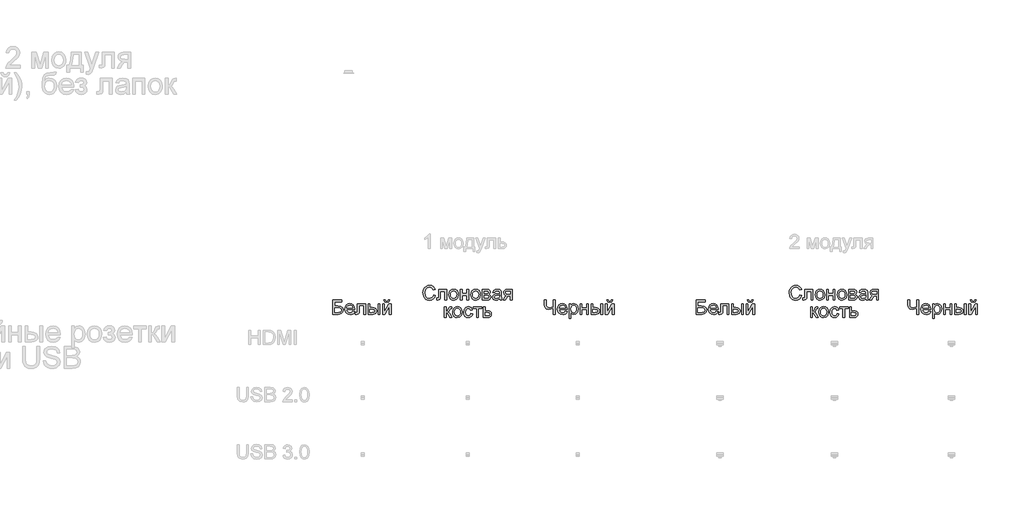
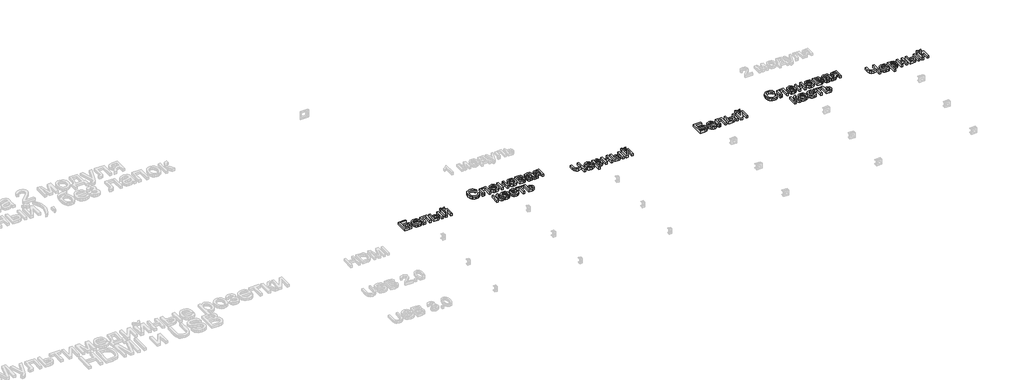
# One storey, part 37 of 47: 6 proxies.
"""IFC4 building model written with IfcOpenShell, lengths in millimetres."""

import ifcopenshell
import ifcopenshell.guid

model = None  # the IFC model being written
_history = None  # IfcOwnerHistory: only IFC2X3 demands one
_inside = {}  # id of a spatial element -> (the spatial element, [elements in it])
_under = {}  # id of a project, library or spatial element -> (it, [spatial elements below it])
_declared = {}  # id of a project -> (the project, [libraries it declares])
_typed = {}  # id of a type object -> (the type object, [elements of that type])
_made_of = {}  # id of a material, layer set ... -> (it, [elements and type objects made of it])


def new_model(schema):
    """Start an empty IFC model of exactly this schema.

    Asked for "IFC4X3", IfcOpenShell would pick the latest addendum, in which some entities
    have other attributes; the version numbers below select the first issue.
    IFC2X3 requires an IfcOwnerHistory on every rooted entity: one is made here for all.
    """
    global model, _history
    if schema == "IFC4X3":
        model = ifcopenshell.file(schema_version=(4, 3, 0, 0))
    else:
        model = ifcopenshell.file(schema=schema)
    _inside.clear()
    _under.clear()
    _declared.clear()
    _typed.clear()
    _made_of.clear()
    _history = None
    if model.schema == "IFC2X3":
        org = make("IfcOrganization", Name="unknown")
        user = make(
            "IfcPersonAndOrganization",
            ThePerson=make("IfcPerson", FamilyName="unknown"),
            TheOrganization=org,
        )
        app = make(
            "IfcApplication",
            ApplicationDeveloper=org,
            Version="unknown",
            ApplicationFullName="unknown",
            ApplicationIdentifier="unknown",
        )
        _history = make(
            "IfcOwnerHistory",
            OwningUser=user,
            OwningApplication=app,
            ChangeAction="ADDED",
            CreationDate=0,
        )
    return model


def make(cls, **values):
    """One entity of the class cls with the attributes given. An attribute that is None is left unset."""
    return model.create_entity(
        cls, **{name: value for name, value in values.items() if value is not None}
    )


def rooted(cls, **values):
    """An entity with a GlobalId (a new one), such as an element, a storey or a relation."""
    return make(cls, GlobalId=ifcopenshell.guid.new(), OwnerHistory=_history, **values)


def si_unit(unit_type, name, prefix=None):
    """IfcSIUnit, for example si_unit("LENGTHUNIT", "METRE", prefix="MILLI")."""
    return make("IfcSIUnit", UnitType=unit_type, Prefix=prefix, Name=name)


def assignment(units):
    """IfcUnitAssignment: the units of a project."""
    return None if units is None else make("IfcUnitAssignment", Units=units)


def point(xyz):
    """IfcCartesianPoint."""
    return None if xyz is None else make("IfcCartesianPoint", Coordinates=xyz)


def direction(xyz):
    """IfcDirection."""
    return None if xyz is None else make("IfcDirection", DirectionRatios=xyz)


def frame(location, z_axis=None, x_axis=None):
    """IfcAxis2Placement3D, a coordinate frame: its origin and axes. An axis left out is left unset."""
    return make(
        "IfcAxis2Placement3D",
        Location=point(location),
        Axis=direction(z_axis),
        RefDirection=direction(x_axis),
    )


def origin():
    """The frame at (0, 0, 0) with its axes left unset."""
    return frame((0.0, 0.0, 0.0))


def origin_with_axes():
    """The frame at (0, 0, 0) with the z axis (0, 0, 1) and the x axis (1, 0, 0) written out."""
    return frame((0.0, 0.0, 0.0), z_axis=(0.0, 0.0, 1.0), x_axis=(1.0, 0.0, 0.0))


def place(relative_to, where):
    """IfcLocalPlacement: puts the frame where relative to a parent placement (None: the world)."""
    return make(
        "IfcLocalPlacement", PlacementRelTo=relative_to, RelativePlacement=where
    )


def context(
    kind, dimensions, precision=None, world=None, true_north=None, identifier=None
):
    """IfcGeometricRepresentationContext, for example the 3D "Model" context."""
    return make(
        "IfcGeometricRepresentationContext",
        ContextIdentifier=identifier,
        ContextType=kind,
        CoordinateSpaceDimension=dimensions,
        Precision=precision,
        WorldCoordinateSystem=world,
        TrueNorth=true_north,
    )


def project(units=None, contexts=None):
    """IfcProject with its units and contexts."""
    return rooted(
        "IfcProject",
        Name="project",
        RepresentationContexts=contexts,
        UnitsInContext=assignment(units),
    )


def spatial(cls, under=None, at=None, **own):
    """A site, building, storey or space (cls), placed at a placement, below another one or the project."""
    s = rooted(cls, ObjectPlacement=at, **own)
    if under is not None:
        _under.setdefault(under.id(), (under, []))[1].append(s)
    return s


def polyline(points):
    """IfcPolyline through the points."""
    return make("IfcPolyline", Points=[point(p) for p in points])


def outline(outer, holes=None, kind="AREA"):
    """IfcArbitraryClosedProfileDef: a profile drawn as a closed curve; with holes, ...WithVoids."""
    if holes is None:
        return make("IfcArbitraryClosedProfileDef", ProfileType=kind, OuterCurve=outer)
    return make(
        "IfcArbitraryProfileDefWithVoids",
        ProfileType=kind,
        OuterCurve=outer,
        InnerCurves=holes,
    )


def extrude(swept, where, along, depth):
    """IfcExtrudedAreaSolid: the profile swept, set in the frame where, extruded along a direction by depth."""
    return make(
        "IfcExtrudedAreaSolid",
        SweptArea=swept,
        Position=where,
        ExtrudedDirection=direction(along),
        Depth=depth,
    )


def shape(context_of_items, identifier, shape_type, items):
    """IfcShapeRepresentation: the items that make up one representation, for example the "Body"."""
    return make(
        "IfcShapeRepresentation",
        ContextOfItems=context_of_items,
        RepresentationIdentifier=identifier,
        RepresentationType=shape_type,
        Items=items,
    )


def made_of(thing, what):
    """Note that an element or type object is made of a material, layer set ...; save() writes the relation."""
    if what is not None:
        _made_of.setdefault(what.id(), (what, []))[1].append(thing)
    return thing


def element(
    cls,
    number,
    at=None,
    inside=None,
    cuts=None,
    type_object=None,
    material=None,
    context=None,
    identifier="Body",
    shape_type=None,
    held_by="IfcProductDefinitionShape",
    body=None,
    shapes=None,
    **own,
):
    """One element of the class cls, such as IfcWall. Its Tag is "e" and its number.

    at: its placement. inside: the storey or other place that contains it. cuts: it is an
    opening in that element (IfcRelVoidsElement). A single representation is given by context,
    identifier, shape_type and body (its items); several are given by shapes. held_by: the class
    of the entity that holds the representations. save() writes the other relations.
    """
    e = rooted(cls, Tag="e%d" % number, ObjectPlacement=at, **own)
    if body is not None:
        shapes = [shape(context, identifier, shape_type, body)]
    if shapes is not None:
        e.Representation = make(held_by, Representations=shapes)
    if inside is not None:
        _inside.setdefault(inside.id(), (inside, []))[1].append(e)
    if cuts is not None:
        rooted(
            "IfcRelVoidsElement", RelatingBuildingElement=cuts, RelatedOpeningElement=e
        )
    if type_object is not None:
        _typed.setdefault(type_object.id(), (type_object, []))[1].append(e)
    return made_of(e, material)


def aggregate(whole, parts):
    """IfcRelAggregates: a whole, such as a stair, and the parts it consists of."""
    return rooted("IfcRelAggregates", RelatingObject=whole, RelatedObjects=parts)


def save(model, path):
    """Write the relations noted so far, then the file.

    IfcRelAggregates (storeys below a building ...), IfcRelContainedInSpatialStructure (elements
    in a storey), IfcRelDefinesByType, IfcRelAssociatesMaterial and IfcRelDeclares: one each for
    every whole, place, type object, material and project.
    """
    for whole, parts in _under.values():
        aggregate(whole, parts)
    for where, things in _inside.values():
        rooted(
            "IfcRelContainedInSpatialStructure",
            RelatedElements=things,
            RelatingStructure=where,
        )
    for kind, things in _typed.values():
        rooted("IfcRelDefinesByType", RelatedObjects=things, RelatingType=kind)
    for what, things in _made_of.values():
        rooted("IfcRelAssociatesMaterial", RelatedObjects=things, RelatingMaterial=what)
    for by, libraries in _declared.values():
        rooted("IfcRelDeclares", RelatingContext=by, RelatedDefinitions=libraries)
    model.write(path)


model = new_model("IFC4")

# Units and contexts
model_context = context("Model", 3, world=origin())
ifc_project = project(units=[si_unit("LENGTHUNIT", "METRE", prefix="MILLI")], contexts=[model_context])

# Site, building, storey
site = spatial("IfcSite", under=ifc_project)
building = spatial("IfcBuilding", under=site)
storey = spatial("IfcBuildingStorey", under=building, Name="Этаж 01", Elevation=0.0)

# Proxies
placement = place(None, origin())
element("IfcBuildingElementProxy", 1, Name="100 мм Arial", ObjectType="100 мм Arial", at=placement, inside=storey, context=model_context, shape_type="SweptSolid", body=[
    extrude(outline(polyline([(-105.6272764, -8062.9660687), (-42.8420826, -8062.9660687), (-42.8420826, -8075.5231075), (-93.0702376, -8075.5231075), (-93.0702376, -8105.3460746), (-69.5503154, -8105.3460746), (-48.8262964, -8107.8967231), (-36.4899868, -8117.5352313), (-31.8546737, -8134.0163447), (-35.1533489, -8148.3269543), (-45.0003236, -8159.2039986), (-67.2939725, -8163.4223789), (-105.6272764, -8163.4223789), (-105.6272764, -8062.9660687)]), holes=[polyline([(-93.0702376, -8150.8653401), (-66.1658011, -8150.8653401), (-49.8563659, -8146.7205363), (-45.7728758, -8141.5395315), (-44.4117124, -8134.2861248), (-47.5264466, -8124.4514128), (-56.196199, -8119.202963), (-75.1175963, -8117.9031133), (-93.0702376, -8117.9031133), (-93.0702376, -8150.8653401)])]), origin_with_axes(), (0.0, 0.0, 1.0), 20.0),
    extrude(outline(polyline([(35.4922569, -8141.447561), (47.804041, -8143.0171909), (43.3679973, -8152.2939485), (36.2893346, -8159.2285241), (26.7274684, -8163.5511376), (14.8418143, -8164.9920087), (0.1081404, -8162.5057396), (-11.2287565, -8155.0469321), (-18.4576377, -8143.0999643), (-20.8672647, -8127.1492141), (-18.4331122, -8110.6619694), (-11.1306546, -8098.3317912), (0.0529581, -8090.6430575), (14.1305757, -8088.0801462), (27.7698007, -8090.6369261), (38.6683048, -8098.3072657), (45.8144126, -8110.6129185), (48.1964485, -8127.0756377), (48.1228721, -8130.4601521), (-8.310226, -8130.4601521), (-6.1366565, -8139.8595371), (-1.0874761, -8146.7695872), (6.1996531, -8151.0186243), (15.0870689, -8152.4349699), (27.398853, -8149.810745), (35.4922569, -8141.447561)]), holes=[polyline([(-8.310226, -8117.9031133), (35.6394097, -8117.9031133), (30.6116891, -8106.5232969), (23.2908374, -8102.108713), (14.0815248, -8100.637185), (-1.3817817, -8105.3338118), (-6.2470211, -8110.8244506), (-8.310226, -8117.9031133)])]), origin_with_axes(), (0.0, 0.0, 1.0), 20.0),
    extrude(outline(polyline([(67.0320067, -8089.6497761), (123.5386811, -8089.6497761), (123.5386811, -8163.3488025), (110.9816423, -8163.3488025), (110.9816423, -8102.2068149), (79.5890454, -8102.2068149), (79.5890454, -8137.4008591), (78.7429168, -8153.6367178), (74.095341, -8160.4915856), (63.107932, -8163.4223789), (52.905338, -8162.7847167), (52.905338, -8150.8653401), (58.5216698, -8150.8653401), (64.1993153, -8150.0927879), (66.4679209, -8147.6402413), (67.0320067, -8136.6896205), (67.0320067, -8089.6497761)])), origin_with_axes(), (0.0, 0.0, 1.0), 20.0),
    extrude(outline(polyline([(211.4379525, -8089.6497761), (223.9949913, -8089.6497761), (223.9949913, -8163.4223789), (211.4379525, -8163.4223789), (211.4379525, -8089.6497761)])), origin_with_axes(), (0.0, 0.0, 1.0), 20.0),
    extrude(outline(polyline([(142.3742393, -8089.6497761), (154.931278, -8089.6497761), (154.931278, -8116.3334835), (170.4558982, -8116.3334835), (183.874394, -8117.906179), (193.8164049, -8122.6242656), (199.9692313, -8130.1075985), (202.0201734, -8139.976033), (200.3003251, -8148.9615508), (195.1407801, -8156.5429855), (186.2043133, -8161.7025305), (173.1536995, -8163.4223789), (142.3742393, -8163.4223789), (142.3742393, -8089.6497761)]), holes=[polyline([(154.931278, -8150.8653401), (167.8316733, -8150.8653401), (184.484465, -8148.2288525), (189.4631346, -8140.0005585), (185.772052, -8132.2750366), (169.4748796, -8128.8905222), (154.931278, -8128.8905222), (154.931278, -8150.8653401)])]), origin_with_axes(), (0.0, 0.0, 1.0), 20.0),
    extrude(outline(polyline([(283.6409254, -8062.9660687), (293.0587045, -8062.9660687), (286.9641261, -8076.9333218), (273.4383314, -8081.8016269), (258.796628, -8076.97011), (252.2483285, -8062.9660687), (261.6661076, -8062.9660687), (265.1977747, -8070.0416657), (272.31016, -8072.3838478), (280.1092583, -8070.1152421), (283.6409254, -8062.9660687)])), origin_with_axes(), (0.0, 0.0, 1.0), 20.0),
    extrude(outline(polyline([(242.8305494, -8089.6497761), (255.3875882, -8089.6497761), (255.3875882, -8145.9111959), (286.2406248, -8089.6497761), (302.4764836, -8089.6497761), (302.4764836, -8163.4223789), (289.9194448, -8163.4223789), (289.9194448, -8107.5043156), (259.2626119, -8163.4223789), (242.8305494, -8163.4223789), (242.8305494, -8089.6497761)])), origin_with_axes(), (0.0, 0.0, 1.0), 20.0),
])
element("IfcBuildingElementProxy", 2, Name="100 мм Arial", ObjectType="100 мм Arial", at=placement, inside=storey, context=model_context, shape_type="SweptSolid", body=[
    extrude(outline(polyline([(599.840867, -8027.7132999), (612.3979057, -8030.9506614), (606.6037643, -8045.5831678), (597.5109477, -8056.2732054), (585.5670456, -8062.8123079), (571.2196477, -8064.9920087), (556.6545864, -8063.3426711), (545.0877634, -8058.3946583), (536.2218073, -8050.3196485), (529.7593469, -8039.28932), (524.4986344, -8012.4339343), (525.9854908, -7997.7860996), (530.4460599, -7985.1370903), (537.64735, -7974.888511), (547.356369, -7967.4419663), (558.8710754, -7962.9078207), (571.4894279, -7961.3964389), (585.2574115, -7963.3523448), (596.6402936, -7969.2200626), (605.2824548, -7978.6378417), (610.8282759, -7991.2439314), (598.2712371, -7994.2360383), (587.9705413, -7978.7972572), (570.9989185, -7973.9534776), (551.35402, -7979.3245548), (540.2562465, -7993.745529), (537.0556731, -8012.4094089), (540.8448577, -8034.0408702), (552.641607, -8047.8609705), (569.968849, -8052.4349699), (580.4504201, -8050.8776028), (589.1845518, -8046.2055015), (595.7788366, -8038.4677169), (599.840867, -8027.7132999)])), origin_with_axes(), (0.0, 0.0, 1.0), 20.0),
    extrude(outline(polyline([(634.3727236, -7989.6497761), (690.879398, -7989.6497761), (690.879398, -8063.3488025), (678.3223593, -8063.3488025), (678.3223593, -8002.2068149), (646.9297624, -8002.2068149), (646.9297624, -8037.4008591), (646.0836338, -8053.6367178), (641.4360579, -8060.4915856), (630.448649, -8063.4223789), (620.246055, -8062.7847167), (620.246055, -8050.8653401), (625.8623868, -8050.8653401), (631.5400322, -8050.0927879), (633.8086379, -8047.6402413), (634.3727236, -8036.6896205), (634.3727236, -7989.6497761)])), origin_with_axes(), (0.0, 0.0, 1.0), 20.0),
    extrude(outline(polyline([(706.5756965, -8026.5360775), (709.2918919, -8008.748983), (717.4404781, -7996.2471265), (727.508182, -7990.1218913), (739.5624487, -7988.0801462), (752.7540839, -7990.5664154), (763.2908374, -7998.0252228), (770.1978219, -8009.8679574), (772.50015, -8025.5060079), (768.4289226, -8047.8487077), (756.5708596, -8060.4915856), (739.5624487, -8064.9920087), (726.211398, -8062.5149366), (715.6869073, -8055.0837203), (708.8534992, -8042.9926654), (706.5756965, -8026.5360775)]), holes=[polyline([(719.1327353, -8026.511552), (720.5858692, -8037.87604), (724.9452708, -8045.9725096), (731.505833, -8050.8193548), (739.5624487, -8052.4349699), (747.5822762, -8050.8101578), (754.1305757, -8045.9357214), (758.4899774, -8037.7319529), (759.9431113, -8026.1191445), (758.4807803, -8015.0857504), (754.0937875, -8007.0996454), (747.536291, -8002.2528001), (739.5624487, -8000.637185), (731.505833, -8002.2466687), (724.9452708, -8007.0751199), (720.5858692, -8015.1531954), (719.1327353, -8026.511552)])]), origin_with_axes(), (0.0, 0.0, 1.0), 20.0),
    extrude(outline(polyline([(786.6268187, -7989.6497761), (799.1838574, -7989.6497761), (799.1838574, -8017.9031133), (832.1460842, -8017.9031133), (832.1460842, -7989.6497761), (844.703123, -7989.6497761), (844.703123, -8063.4223789), (832.1460842, -8063.4223789), (832.1460842, -8030.4601521), (799.1838574, -8030.4601521), (799.1838574, -8063.4223789), (786.6268187, -8063.4223789), (786.6268187, -7989.6497761)])), origin_with_axes(), (0.0, 0.0, 1.0), 20.0),
    extrude(outline(polyline([(860.3994214, -8026.5360775), (863.1156168, -8008.748983), (871.264203, -7996.2471265), (881.3319069, -7990.1218913), (893.3861737, -7988.0801462), (906.5778089, -7990.5664154), (917.1145623, -7998.0252228), (924.0215468, -8009.8679574), (926.323875, -8025.5060079), (922.2526475, -8047.8487077), (910.3945846, -8060.4915856), (893.3861737, -8064.9920087), (880.0351229, -8062.5149366), (869.5106322, -8055.0837203), (862.6772241, -8042.9926654), (860.3994214, -8026.5360775)]), holes=[polyline([(872.9564602, -8026.511552), (874.4095941, -8037.87604), (878.7689957, -8045.9725096), (885.329558, -8050.8193548), (893.3861737, -8052.4349699), (901.4060011, -8050.8101578), (907.9543007, -8045.9357214), (912.3137023, -8037.7319529), (913.7668362, -8026.1191445), (912.3045053, -8015.0857504), (907.9175125, -8007.0996454), (901.3600159, -8002.2528001), (893.3861737, -8000.637185), (885.329558, -8002.2466687), (878.7689957, -8007.0751199), (874.4095941, -8015.1531954), (872.9564602, -8026.511552)])]), origin_with_axes(), (0.0, 0.0, 1.0), 20.0),
    extrude(outline(polyline([(940.4505436, -7989.6497761), (968.1152696, -7989.6497761), (983.2842705, -7991.3297705), (991.8191328, -7997.4856626), (995.3875882, -8008.2155541), (993.2293471, -8016.9343574), (986.7300986, -8023.1515631), (995.166859, -8029.95738), (998.5268479, -8041.7909175), (996.3992637, -8051.3619808), (991.3408862, -8058.1003527), (983.3333215, -8062.0918723), (972.3581753, -8063.4223789), (940.4505436, -8063.4223789), (940.4505436, -7989.6497761)]), holes=[polyline([(953.0075823, -8017.9031133), (965.4174683, -8017.9031133), (975.6568505, -8017.2654512), (980.6355202, -8014.7148027), (982.8305494, -8010.104015), (978.9800512, -8003.948123), (965.8098758, -8002.2068149), (953.0075823, -8002.2068149), (953.0075823, -8017.9031133)]), polyline([(953.0075823, -8050.8653401), (968.4095752, -8050.8653401), (982.07026, -8048.5967345), (985.9698091, -8040.760848), (983.8238308, -8034.7153205), (978.2320245, -8031.1959161), (967.1833019, -8030.4601521), (953.0075823, -8030.4601521), (953.0075823, -8050.8653401)])]), origin_with_axes(), (0.0, 0.0, 1.0), 20.0),
    extrude(outline(polyline([(1061.3120417, -8054.0045998), (1049.1351477, -8062.5149366), (1035.6829294, -8064.9920087), (1025.1890955, -8063.5020866), (1017.4482452, -8059.0323204), (1012.6749763, -8052.2448976), (1011.0838866, -8043.8020058), (1013.4873823, -8033.8691919), (1019.8026899, -8026.6587048), (1028.5950696, -8022.5384265), (1039.4598512, -8020.6499656), (1061.2384653, -8016.3334835), (1061.3120417, -8013.5375803), (1057.853951, -8004.266954), (1043.972537, -8000.637185), (1031.2683454, -8003.0529434), (1025.2105553, -8011.6245939), (1012.6535165, -8010.0549641), (1018.0859073, -7997.7922309), (1029.0242653, -7990.6062693), (1045.5912178, -7988.0801462), (1060.8092697, -7990.3119637), (1069.4054456, -7995.9160327), (1073.2559438, -8004.4386323), (1073.8690805, -8015.4260412), (1073.8690805, -8031.0487633), (1074.5067426, -8052.8641656), (1077.0083402, -8063.4223789), (1064.4513014, -8063.4223789), (1061.3120417, -8054.0045998)]), holes=[polyline([(1061.3120417, -8028.8905222), (1041.0540065, -8032.7410205), (1030.2505386, -8034.7766342), (1025.3577081, -8038.0875721), (1023.6409254, -8042.919089), (1027.381059, -8049.7126432), (1038.3562052, -8052.4349699), (1051.0603968, -8049.4306003), (1059.2519025, -8042.1587995), (1061.2384653, -8032.4467149), (1061.3120417, -8028.8905222)])]), origin_with_axes(), (0.0, 0.0, 1.0), 20.0),
    extrude(outline(polyline([(1147.6416833, -7989.6497761), (1147.6416833, -8063.4223789), (1135.0846445, -8063.4223789), (1135.0846445, -8035.1690416), (1128.2420394, -8035.1690416), (1118.9223622, -8036.7631969), (1110.1667707, -8047.4808257), (1100.1603804, -8063.4223789), (1085.6413043, -8063.4223789), (1098.247394, -8043.2624455), (1108.9404974, -8032.8145969), (1100.3565841, -8030.1842406), (1094.3233194, -8025.1871768), (1089.5653789, -8010.9624063), (1091.1901911, -8002.3662304), (1096.0646275, -7995.5604135), (1104.01701, -7991.1274354), (1114.8756602, -7989.6497761), (1147.6416833, -7989.6497761)]), holes=[polyline([(1135.0846445, -8002.2068149), (1118.5299547, -8002.2068149), (1105.1267873, -8005.1130826), (1102.1224177, -8011.9188995), (1106.5492644, -8020.0245662), (1122.2333001, -8022.6120029), (1135.0846445, -8022.6120029), (1135.0846445, -8002.2068149)])]), origin_with_axes(), (0.0, 0.0, 1.0), 20.0),
    extrude(outline(polyline([(674.3982847, -8111.6245939), (686.9553234, -8111.6245939), (686.9553234, -8143.0171909), (695.3675584, -8140.760848), (702.2592144, -8127.615198), (707.9859108, -8116.2721698), (713.0381569, -8112.5810871), (722.222944, -8111.6245939), (724.6264397, -8111.6245939), (724.6264397, -8124.2552091), (721.2419254, -8124.1816327), (715.1105588, -8125.5060079), (710.7940767, -8133.77109), (705.7295679, -8142.7106225), (698.6294454, -8147.0884183), (706.551171, -8151.9751174), (714.3257439, -8162.2696819), (727.7656994, -8185.3971967), (713.491878, -8185.3971967), (700.3217026, -8162.7601913), (693.6998267, -8153.1829967), (686.9553234, -8150.8653401), (686.9553234, -8185.3971967), (674.3982847, -8185.3971967), (674.3982847, -8111.6245939)])), origin_with_axes(), (0.0, 0.0, 1.0), 20.0),
    extrude(outline(polyline([(732.474589, -8148.5108953), (735.1907844, -8130.7238009), (743.3393706, -8118.2219444), (753.4070745, -8112.0967092), (765.4613412, -8110.0549641), (778.6529764, -8112.5412332), (789.1897299, -8120.0000407), (796.0967143, -8131.8427753), (798.3990425, -8147.4808257), (794.3278151, -8169.8235256), (782.4697521, -8182.4664035), (765.4613412, -8186.9668265), (752.1102905, -8184.4897544), (741.5857997, -8177.0585381), (734.7523917, -8164.9674832), (732.474589, -8148.5108953)]), holes=[polyline([(745.0316277, -8148.4863699), (746.4847616, -8159.8508578), (750.8441633, -8167.9473274), (757.4047255, -8172.7941727), (765.4613412, -8174.4097878), (773.4811687, -8172.7849756), (780.0294682, -8167.9105392), (784.3888698, -8159.7067707), (785.8420037, -8148.0939624), (784.3796728, -8137.0605682), (779.99268, -8129.0744632), (773.4351834, -8124.227618), (765.4613412, -8122.6120029), (757.4047255, -8124.2214866), (750.8441633, -8129.0499378), (746.4847616, -8137.1280133), (745.0316277, -8148.4863699)])]), origin_with_axes(), (0.0, 0.0, 1.0), 20.0),
    extrude(outline(polyline([(859.6146065, -8158.7134893), (872.1716453, -8160.2831192), (868.6706349, -8171.4514034), (862.0916786, -8179.8912295), (853.0540442, -8185.1979273), (842.1769999, -8186.9668265), (828.8198178, -8184.4989515), (818.3750348, -8177.0953263), (811.6335973, -8165.0809135), (809.3864514, -8148.7806754), (813.2246869, -8127.9217663), (824.9233344, -8114.518599), (842.0053217, -8110.0549641), (852.6156515, -8111.5878057), (861.0983972, -8116.1863307), (867.1837785, -8123.6052842), (870.6020154, -8133.5994118), (858.0449767, -8135.1690416), (852.2201784, -8125.7635253), (842.1034235, -8122.6120029), (833.9885598, -8124.1632386), (827.5475593, -8128.8169458), (823.3445075, -8136.8245106), (821.9434902, -8148.4373189), (823.3138506, -8160.2064771), (827.4249319, -8168.241633), (833.7494366, -8172.8677491), (841.760067, -8174.4097878), (853.5936045, -8170.5592896), (859.6146065, -8158.7134893)])), origin_with_axes(), (0.0, 0.0, 1.0), 20.0),
    extrude(outline(polyline([(876.8805348, -8111.6245939), (936.526469, -8111.6245939), (936.526469, -8124.1816327), (912.9820213, -8124.1816327), (912.9820213, -8185.3971967), (900.4249825, -8185.3971967), (900.4249825, -8124.1816327), (876.8805348, -8124.1816327), (876.8805348, -8111.6245939)])), origin_with_axes(), (0.0, 0.0, 1.0), 20.0),
    extrude(outline(polyline([(947.5138779, -8111.6245939), (960.0709166, -8111.6245939), (960.0709166, -8138.3083013), (974.5409418, -8138.3083013), (987.0857178, -8139.8809968), (996.3686068, -8144.5990834), (1002.107566, -8152.0824164), (1004.0205523, -8161.9508509), (1002.3926745, -8170.9363686), (997.509041, -8178.5178034), (989.0446894, -8183.6773484), (976.6746574, -8185.3971967), (947.5138779, -8185.3971967), (947.5138779, -8111.6245939)]), holes=[polyline([(960.0709166, -8172.8401579), (971.7940896, -8172.8401579), (986.938565, -8170.2036703), (991.4635136, -8161.9753763), (988.1157874, -8154.2498544), (973.290143, -8150.8653401), (960.0709166, -8150.8653401), (960.0709166, -8172.8401579)])]), origin_with_axes(), (0.0, 0.0, 1.0), 20.0),
])
element("IfcBuildingElementProxy", 3, Name="100 мм Arial", ObjectType="100 мм Arial", at=placement, inside=storey, context=model_context, shape_type="SweptSolid", body=[
    extrude(outline(polyline([(1449.1197653, -8163.4223789), (1436.5627265, -8163.4223789), (1436.5627265, -8123.2006141), (1405.4644352, -8130.4601521), (1387.1071236, -8125.4937452), (1376.4630712, -8112.8876555), (1373.7775327, -8092.8871376), (1373.7775327, -8062.9660687), (1386.3345714, -8062.9660687), (1386.3345714, -8091.1948805), (1387.8428876, -8104.7727918), (1392.3678362, -8112.7405027), (1406.8623868, -8117.9031133), (1436.5627265, -8111.6736449), (1436.5627265, -8062.9660687), (1449.1197653, -8062.9660687), (1449.1197653, -8163.4223789)])), origin_with_axes(), (0.0, 0.0, 1.0), 20.0),
    extrude(outline(polyline([(1521.1755854, -8141.447561), (1533.4873695, -8143.0171909), (1529.0513258, -8152.2939485), (1521.9726631, -8159.2285241), (1512.4107969, -8163.5511376), (1500.5251427, -8164.9920087), (1485.7914688, -8162.5057396), (1474.454572, -8155.0469321), (1467.2256908, -8143.0999643), (1464.8160637, -8127.1492141), (1467.2502163, -8110.6619694), (1474.5526739, -8098.3317912), (1485.7362865, -8090.6430575), (1499.8139042, -8088.0801462), (1513.4531292, -8090.6369261), (1524.3516333, -8098.3072657), (1531.497741, -8110.6129185), (1533.879777, -8127.0756377), (1533.8062006, -8130.4601521), (1477.3731025, -8130.4601521), (1479.546672, -8139.8595371), (1484.5958523, -8146.7695872), (1491.8829815, -8151.0186243), (1500.7703974, -8152.4349699), (1513.0821815, -8149.810745), (1521.1755854, -8141.447561)]), holes=[polyline([(1477.3731025, -8117.9031133), (1521.3227382, -8117.9031133), (1516.2950176, -8106.5232969), (1508.9741659, -8102.108713), (1499.7648533, -8100.637185), (1484.3015467, -8105.3338118), (1479.4363074, -8110.8244506), (1477.3731025, -8117.9031133)])]), origin_with_axes(), (0.0, 0.0, 1.0), 20.0),
    extrude(outline(polyline([(1546.4368157, -8191.6757161), (1546.4368157, -8089.6497761), (1558.9938545, -8089.6497761), (1558.9938545, -8101.9615602), (1567.6758696, -8091.5504997), (1579.3990425, -8088.0801462), (1595.3160702, -8092.9361886), (1605.7148679, -8106.6213988), (1609.2220096, -8125.9719917), (1605.2611468, -8146.3158661), (1593.758703, -8160.1727546), (1577.8784636, -8164.9920087), (1566.9523683, -8161.7669099), (1558.9938545, -8153.6121923), (1558.9938545, -8191.6757161), (1546.4368157, -8191.6757161)]), holes=[polyline([(1558.9938545, -8127.1246887), (1560.3519522, -8138.3818777), (1564.4262453, -8146.2545524), (1570.4380502, -8150.8898656), (1577.6086835, -8152.4349699), (1584.8958126, -8150.8346833), (1591.0609017, -8146.0338232), (1595.2639535, -8137.8729743), (1596.6649708, -8126.1927209), (1595.2976761, -8114.9968456), (1591.1957918, -8107.0138063), (1585.1931839, -8102.2313403), (1578.1237182, -8100.637185), (1571.0266614, -8102.3325079), (1564.7941273, -8107.4184765), (1560.4439227, -8115.7356752), (1558.9938545, -8127.1246887)])]), origin_with_axes(), (0.0, 0.0, 1.0), 20.0),
    extrude(outline(polyline([(1623.3486782, -8089.6497761), (1635.905717, -8089.6497761), (1635.905717, -8117.9031133), (1668.8679437, -8117.9031133), (1668.8679437, -8089.6497761), (1681.4249825, -8089.6497761), (1681.4249825, -8163.4223789), (1668.8679437, -8163.4223789), (1668.8679437, -8130.4601521), (1635.905717, -8130.4601521), (1635.905717, -8163.4223789), (1623.3486782, -8163.4223789), (1623.3486782, -8089.6497761)])), origin_with_axes(), (0.0, 0.0, 1.0), 20.0),
    extrude(outline(polyline([(1700.2605406, -8089.6497761), (1712.8175794, -8089.6497761), (1712.8175794, -8116.3334835), (1728.3421996, -8116.3334835), (1741.7606954, -8117.906179), (1751.7027063, -8122.6242656), (1757.8555327, -8130.1075985), (1759.9064748, -8139.976033), (1758.1866265, -8148.9615508), (1753.0270815, -8156.5429855), (1744.0906147, -8161.7025305), (1731.0400009, -8163.4223789), (1700.2605406, -8163.4223789), (1700.2605406, -8089.6497761)]), holes=[polyline([(1712.8175794, -8150.8653401), (1725.7179747, -8150.8653401), (1742.3707664, -8148.2288525), (1747.349436, -8140.0005585), (1743.6583533, -8132.2750366), (1727.361181, -8128.8905222), (1712.8175794, -8128.8905222), (1712.8175794, -8150.8653401)])]), origin_with_axes(), (0.0, 0.0, 1.0), 20.0),
    extrude(outline(polyline([(1769.3242539, -8089.6497761), (1781.8812926, -8089.6497761), (1781.8812926, -8163.4223789), (1769.3242539, -8163.4223789), (1769.3242539, -8089.6497761)])), origin_with_axes(), (0.0, 0.0, 1.0), 20.0),
    extrude(outline(polyline([(1800.7168508, -8089.6497761), (1813.2738896, -8089.6497761), (1813.2738896, -8145.9111959), (1844.1269262, -8089.6497761), (1860.3627849, -8089.6497761), (1860.3627849, -8163.4223789), (1847.8057462, -8163.4223789), (1847.8057462, -8107.5043156), (1817.1489132, -8163.4223789), (1800.7168508, -8163.4223789), (1800.7168508, -8089.6497761)])), origin_with_axes(), (0.0, 0.0, 1.0), 20.0),
    extrude(outline(polyline([(1841.5272268, -8062.9660687), (1850.9450059, -8062.9660687), (1844.8504275, -8076.9333218), (1831.3246328, -8081.8016269), (1816.6829294, -8076.97011), (1810.1346299, -8062.9660687), (1819.552409, -8062.9660687), (1823.0840761, -8070.0416657), (1830.1964613, -8072.3838478), (1837.9955596, -8070.1152421), (1841.5272268, -8062.9660687)])), origin_with_axes(), (0.0, 0.0, 1.0), 20.0),
])
element("IfcBuildingElementProxy", 4, Name="100 мм Arial", ObjectType="100 мм Arial", at=placement, inside=storey, context=model_context, shape_type="SweptSolid", body=[
    extrude(outline(polyline([(2434.3727236, -8062.9660687), (2497.1579174, -8062.9660687), (2497.1579174, -8075.5231075), (2446.9297624, -8075.5231075), (2446.9297624, -8105.3460746), (2470.4496846, -8105.3460746), (2491.1737036, -8107.8967231), (2503.5100132, -8117.5352313), (2508.1453263, -8134.0163447), (2504.8466511, -8148.3269543), (2494.9996764, -8159.2039986), (2472.7060275, -8163.4223789), (2434.3727236, -8163.4223789), (2434.3727236, -8062.9660687)]), holes=[polyline([(2446.9297624, -8150.8653401), (2473.8341989, -8150.8653401), (2490.1436341, -8146.7205363), (2494.2271242, -8141.5395315), (2495.5882876, -8134.2861248), (2492.4735534, -8124.4514128), (2483.803801, -8119.202963), (2464.8824037, -8117.9031133), (2446.9297624, -8117.9031133), (2446.9297624, -8150.8653401)])]), origin_with_axes(), (0.0, 0.0, 1.0), 20.0),
    extrude(outline(polyline([(2575.4922569, -8141.447561), (2587.804041, -8143.0171909), (2583.3679973, -8152.2939485), (2576.2893346, -8159.2285241), (2566.7274684, -8163.5511376), (2554.8418143, -8164.9920087), (2540.1081404, -8162.5057396), (2528.7712435, -8155.0469321), (2521.5423623, -8143.0999643), (2519.1327353, -8127.1492141), (2521.5668878, -8110.6619694), (2528.8693454, -8098.3317912), (2540.0529581, -8090.6430575), (2554.1305757, -8088.0801462), (2567.7698007, -8090.6369261), (2578.6683048, -8098.3072657), (2585.8144126, -8110.6129185), (2588.1964485, -8127.0756377), (2588.1228721, -8130.4601521), (2531.689774, -8130.4601521), (2533.8633435, -8139.8595371), (2538.9125239, -8146.7695872), (2546.1996531, -8151.0186243), (2555.0870689, -8152.4349699), (2567.398853, -8149.810745), (2575.4922569, -8141.447561)]), holes=[polyline([(2531.689774, -8117.9031133), (2575.6394097, -8117.9031133), (2570.6116891, -8106.5232969), (2563.2908374, -8102.108713), (2554.0815248, -8100.637185), (2538.6182183, -8105.3338118), (2533.7529789, -8110.8244506), (2531.689774, -8117.9031133)])]), origin_with_axes(), (0.0, 0.0, 1.0), 20.0),
    extrude(outline(polyline([(2607.0320067, -8089.6497761), (2663.5386811, -8089.6497761), (2663.5386811, -8163.3488025), (2650.9816423, -8163.3488025), (2650.9816423, -8102.2068149), (2619.5890454, -8102.2068149), (2619.5890454, -8137.4008591), (2618.7429168, -8153.6367178), (2614.095341, -8160.4915856), (2603.107932, -8163.4223789), (2592.905338, -8162.7847167), (2592.905338, -8150.8653401), (2598.5216698, -8150.8653401), (2604.1993153, -8150.0927879), (2606.4679209, -8147.6402413), (2607.0320067, -8136.6896205), (2607.0320067, -8089.6497761)])), origin_with_axes(), (0.0, 0.0, 1.0), 20.0),
    extrude(outline(polyline([(2751.4379525, -8089.6497761), (2763.9949913, -8089.6497761), (2763.9949913, -8163.4223789), (2751.4379525, -8163.4223789), (2751.4379525, -8089.6497761)])), origin_with_axes(), (0.0, 0.0, 1.0), 20.0),
    extrude(outline(polyline([(2682.3742393, -8089.6497761), (2694.931278, -8089.6497761), (2694.931278, -8116.3334835), (2710.4558982, -8116.3334835), (2723.874394, -8117.906179), (2733.8164049, -8122.6242656), (2739.9692313, -8130.1075985), (2742.0201734, -8139.976033), (2740.3003251, -8148.9615508), (2735.1407801, -8156.5429855), (2726.2043133, -8161.7025305), (2713.1536995, -8163.4223789), (2682.3742393, -8163.4223789), (2682.3742393, -8089.6497761)]), holes=[polyline([(2694.931278, -8150.8653401), (2707.8316733, -8150.8653401), (2724.484465, -8148.2288525), (2729.4631346, -8140.0005585), (2725.772052, -8132.2750366), (2709.4748796, -8128.8905222), (2694.931278, -8128.8905222), (2694.931278, -8150.8653401)])]), origin_with_axes(), (0.0, 0.0, 1.0), 20.0),
    extrude(outline(polyline([(2823.6409254, -8062.9660687), (2833.0587045, -8062.9660687), (2826.9641261, -8076.9333218), (2813.4383314, -8081.8016269), (2798.796628, -8076.97011), (2792.2483285, -8062.9660687), (2801.6661076, -8062.9660687), (2805.1977747, -8070.0416657), (2812.31016, -8072.3838478), (2820.1092583, -8070.1152421), (2823.6409254, -8062.9660687)])), origin_with_axes(), (0.0, 0.0, 1.0), 20.0),
    extrude(outline(polyline([(2782.8305494, -8089.6497761), (2795.3875882, -8089.6497761), (2795.3875882, -8145.9111959), (2826.2406248, -8089.6497761), (2842.4764836, -8089.6497761), (2842.4764836, -8163.4223789), (2829.9194448, -8163.4223789), (2829.9194448, -8107.5043156), (2799.2626119, -8163.4223789), (2782.8305494, -8163.4223789), (2782.8305494, -8089.6497761)])), origin_with_axes(), (0.0, 0.0, 1.0), 20.0),
])
element("IfcBuildingElementProxy", 5, Name="100 мм Arial", ObjectType="100 мм Arial", at=placement, inside=storey, context=model_context, shape_type="SweptSolid", body=[
    extrude(outline(polyline([(3159.840867, -8027.7132999), (3172.3979057, -8030.9506614), (3166.6037643, -8045.5831678), (3157.5109477, -8056.2732054), (3145.5670456, -8062.8123079), (3131.2196477, -8064.9920087), (3116.6545864, -8063.3426711), (3105.0877634, -8058.3946583), (3096.2218073, -8050.3196485), (3089.7593469, -8039.28932), (3084.4986344, -8012.4339343), (3085.9854908, -7997.7860996), (3090.4460599, -7985.1370903), (3097.64735, -7974.888511), (3107.356369, -7967.4419663), (3118.8710754, -7962.9078207), (3131.4894279, -7961.3964389), (3145.2574115, -7963.3523448), (3156.6402936, -7969.2200626), (3165.2824548, -7978.6378417), (3170.8282759, -7991.2439314), (3158.2712371, -7994.2360383), (3147.9705413, -7978.7972572), (3130.9989185, -7973.9534776), (3111.35402, -7979.3245548), (3100.2562465, -7993.745529), (3097.0556731, -8012.4094089), (3100.8448577, -8034.0408702), (3112.641607, -8047.8609705), (3129.968849, -8052.4349699), (3140.4504201, -8050.8776028), (3149.1845518, -8046.2055015), (3155.7788366, -8038.4677169), (3159.840867, -8027.7132999)])), origin_with_axes(), (0.0, 0.0, 1.0), 20.0),
    extrude(outline(polyline([(3194.3727236, -7989.6497761), (3250.879398, -7989.6497761), (3250.879398, -8063.3488025), (3238.3223593, -8063.3488025), (3238.3223593, -8002.2068149), (3206.9297624, -8002.2068149), (3206.9297624, -8037.4008591), (3206.0836338, -8053.6367178), (3201.4360579, -8060.4915856), (3190.448649, -8063.4223789), (3180.246055, -8062.7847167), (3180.246055, -8050.8653401), (3185.8623868, -8050.8653401), (3191.5400322, -8050.0927879), (3193.8086379, -8047.6402413), (3194.3727236, -8036.6896205), (3194.3727236, -7989.6497761)])), origin_with_axes(), (0.0, 0.0, 1.0), 20.0),
    extrude(outline(polyline([(3266.5756965, -8026.5360775), (3269.2918919, -8008.748983), (3277.4404781, -7996.2471265), (3287.508182, -7990.1218913), (3299.5624487, -7988.0801462), (3312.7540839, -7990.5664154), (3323.2908374, -7998.0252228), (3330.1978219, -8009.8679574), (3332.50015, -8025.5060079), (3328.4289226, -8047.8487077), (3316.5708596, -8060.4915856), (3299.5624487, -8064.9920087), (3286.211398, -8062.5149366), (3275.6869073, -8055.0837203), (3268.8534992, -8042.9926654), (3266.5756965, -8026.5360775)]), holes=[polyline([(3279.1327353, -8026.511552), (3280.5858692, -8037.87604), (3284.9452708, -8045.9725096), (3291.505833, -8050.8193548), (3299.5624487, -8052.4349699), (3307.5822762, -8050.8101578), (3314.1305757, -8045.9357214), (3318.4899774, -8037.7319529), (3319.9431113, -8026.1191445), (3318.4807803, -8015.0857504), (3314.0937875, -8007.0996454), (3307.536291, -8002.2528001), (3299.5624487, -8000.637185), (3291.505833, -8002.2466687), (3284.9452708, -8007.0751199), (3280.5858692, -8015.1531954), (3279.1327353, -8026.511552)])]), origin_with_axes(), (0.0, 0.0, 1.0), 20.0),
    extrude(outline(polyline([(3346.6268187, -7989.6497761), (3359.1838574, -7989.6497761), (3359.1838574, -8017.9031133), (3392.1460842, -8017.9031133), (3392.1460842, -7989.6497761), (3404.703123, -7989.6497761), (3404.703123, -8063.4223789), (3392.1460842, -8063.4223789), (3392.1460842, -8030.4601521), (3359.1838574, -8030.4601521), (3359.1838574, -8063.4223789), (3346.6268187, -8063.4223789), (3346.6268187, -7989.6497761)])), origin_with_axes(), (0.0, 0.0, 1.0), 20.0),
    extrude(outline(polyline([(3420.3994214, -8026.5360775), (3423.1156168, -8008.748983), (3431.264203, -7996.2471265), (3441.3319069, -7990.1218913), (3453.3861737, -7988.0801462), (3466.5778089, -7990.5664154), (3477.1145623, -7998.0252228), (3484.0215468, -8009.8679574), (3486.323875, -8025.5060079), (3482.2526475, -8047.8487077), (3470.3945846, -8060.4915856), (3453.3861737, -8064.9920087), (3440.0351229, -8062.5149366), (3429.5106322, -8055.0837203), (3422.6772241, -8042.9926654), (3420.3994214, -8026.5360775)]), holes=[polyline([(3432.9564602, -8026.511552), (3434.4095941, -8037.87604), (3438.7689957, -8045.9725096), (3445.329558, -8050.8193548), (3453.3861737, -8052.4349699), (3461.4060011, -8050.8101578), (3467.9543007, -8045.9357214), (3472.3137023, -8037.7319529), (3473.7668362, -8026.1191445), (3472.3045053, -8015.0857504), (3467.9175125, -8007.0996454), (3461.3600159, -8002.2528001), (3453.3861737, -8000.637185), (3445.329558, -8002.2466687), (3438.7689957, -8007.0751199), (3434.4095941, -8015.1531954), (3432.9564602, -8026.511552)])]), origin_with_axes(), (0.0, 0.0, 1.0), 20.0),
    extrude(outline(polyline([(3500.4505436, -7989.6497761), (3528.1152696, -7989.6497761), (3543.2842705, -7991.3297705), (3551.8191328, -7997.4856626), (3555.3875882, -8008.2155541), (3553.2293471, -8016.9343574), (3546.7300986, -8023.1515631), (3555.166859, -8029.95738), (3558.5268479, -8041.7909175), (3556.3992637, -8051.3619808), (3551.3408862, -8058.1003527), (3543.3333215, -8062.0918723), (3532.3581753, -8063.4223789), (3500.4505436, -8063.4223789), (3500.4505436, -7989.6497761)]), holes=[polyline([(3513.0075823, -8017.9031133), (3525.4174683, -8017.9031133), (3535.6568505, -8017.2654512), (3540.6355202, -8014.7148027), (3542.8305494, -8010.104015), (3538.9800512, -8003.948123), (3525.8098758, -8002.2068149), (3513.0075823, -8002.2068149), (3513.0075823, -8017.9031133)]), polyline([(3513.0075823, -8050.8653401), (3528.4095752, -8050.8653401), (3542.07026, -8048.5967345), (3545.9698091, -8040.760848), (3543.8238308, -8034.7153205), (3538.2320245, -8031.1959161), (3527.1833019, -8030.4601521), (3513.0075823, -8030.4601521), (3513.0075823, -8050.8653401)])]), origin_with_axes(), (0.0, 0.0, 1.0), 20.0),
    extrude(outline(polyline([(3621.3120417, -8054.0045998), (3609.1351477, -8062.5149366), (3595.6829294, -8064.9920087), (3585.1890955, -8063.5020866), (3577.4482452, -8059.0323204), (3572.6749763, -8052.2448976), (3571.0838866, -8043.8020058), (3573.4873823, -8033.8691919), (3579.8026899, -8026.6587048), (3588.5950696, -8022.5384265), (3599.4598512, -8020.6499656), (3621.2384653, -8016.3334835), (3621.3120417, -8013.5375803), (3617.853951, -8004.266954), (3603.972537, -8000.637185), (3591.2683454, -8003.0529434), (3585.2105553, -8011.6245939), (3572.6535165, -8010.0549641), (3578.0859073, -7997.7922309), (3589.0242653, -7990.6062693), (3605.5912178, -7988.0801462), (3620.8092697, -7990.3119637), (3629.4054456, -7995.9160327), (3633.2559438, -8004.4386323), (3633.8690805, -8015.4260412), (3633.8690805, -8031.0487633), (3634.5067426, -8052.8641656), (3637.0083402, -8063.4223789), (3624.4513014, -8063.4223789), (3621.3120417, -8054.0045998)]), holes=[polyline([(3621.3120417, -8028.8905222), (3601.0540065, -8032.7410205), (3590.2505386, -8034.7766342), (3585.3577081, -8038.0875721), (3583.6409254, -8042.919089), (3587.381059, -8049.7126432), (3598.3562052, -8052.4349699), (3611.0603968, -8049.4306003), (3619.2519025, -8042.1587995), (3621.2384653, -8032.4467149), (3621.3120417, -8028.8905222)])]), origin_with_axes(), (0.0, 0.0, 1.0), 20.0),
    extrude(outline(polyline([(3707.6416833, -7989.6497761), (3707.6416833, -8063.4223789), (3695.0846445, -8063.4223789), (3695.0846445, -8035.1690416), (3688.2420394, -8035.1690416), (3678.9223622, -8036.7631969), (3670.1667707, -8047.4808257), (3660.1603804, -8063.4223789), (3645.6413043, -8063.4223789), (3658.247394, -8043.2624455), (3668.9404974, -8032.8145969), (3660.3565841, -8030.1842406), (3654.3233194, -8025.1871768), (3649.5653789, -8010.9624063), (3651.1901911, -8002.3662304), (3656.0646275, -7995.5604135), (3664.01701, -7991.1274354), (3674.8756602, -7989.6497761), (3707.6416833, -7989.6497761)]), holes=[polyline([(3695.0846445, -8002.2068149), (3678.5299547, -8002.2068149), (3665.1267873, -8005.1130826), (3662.1224177, -8011.9188995), (3666.5492644, -8020.0245662), (3682.2333001, -8022.6120029), (3695.0846445, -8022.6120029), (3695.0846445, -8002.2068149)])]), origin_with_axes(), (0.0, 0.0, 1.0), 20.0),
    extrude(outline(polyline([(3234.3982847, -8111.6245939), (3246.9553234, -8111.6245939), (3246.9553234, -8143.0171909), (3255.3675584, -8140.760848), (3262.2592144, -8127.615198), (3267.9859108, -8116.2721698), (3273.0381569, -8112.5810871), (3282.222944, -8111.6245939), (3284.6264397, -8111.6245939), (3284.6264397, -8124.2552091), (3281.2419254, -8124.1816327), (3275.1105588, -8125.5060079), (3270.7940767, -8133.77109), (3265.7295679, -8142.7106225), (3258.6294454, -8147.0884183), (3266.551171, -8151.9751174), (3274.3257439, -8162.2696819), (3287.7656994, -8185.3971967), (3273.491878, -8185.3971967), (3260.3217026, -8162.7601913), (3253.6998267, -8153.1829967), (3246.9553234, -8150.8653401), (3246.9553234, -8185.3971967), (3234.3982847, -8185.3971967), (3234.3982847, -8111.6245939)])), origin_with_axes(), (0.0, 0.0, 1.0), 20.0),
    extrude(outline(polyline([(3292.474589, -8148.5108953), (3295.1907844, -8130.7238009), (3303.3393706, -8118.2219444), (3313.4070745, -8112.0967092), (3325.4613412, -8110.0549641), (3338.6529764, -8112.5412332), (3349.1897299, -8120.0000407), (3356.0967143, -8131.8427753), (3358.3990425, -8147.4808257), (3354.3278151, -8169.8235256), (3342.4697521, -8182.4664035), (3325.4613412, -8186.9668265), (3312.1102905, -8184.4897544), (3301.5857997, -8177.0585381), (3294.7523917, -8164.9674832), (3292.474589, -8148.5108953)]), holes=[polyline([(3305.0316277, -8148.4863699), (3306.4847616, -8159.8508578), (3310.8441633, -8167.9473274), (3317.4047255, -8172.7941727), (3325.4613412, -8174.4097878), (3333.4811687, -8172.7849756), (3340.0294682, -8167.9105392), (3344.3888698, -8159.7067707), (3345.8420037, -8148.0939624), (3344.3796728, -8137.0605682), (3339.99268, -8129.0744632), (3333.4351834, -8124.227618), (3325.4613412, -8122.6120029), (3317.4047255, -8124.2214866), (3310.8441633, -8129.0499378), (3306.4847616, -8137.1280133), (3305.0316277, -8148.4863699)])]), origin_with_axes(), (0.0, 0.0, 1.0), 20.0),
    extrude(outline(polyline([(3419.6146065, -8158.7134893), (3432.1716453, -8160.2831192), (3428.6706349, -8171.4514034), (3422.0916786, -8179.8912295), (3413.0540442, -8185.1979273), (3402.1769999, -8186.9668265), (3388.8198178, -8184.4989515), (3378.3750348, -8177.0953263), (3371.6335973, -8165.0809135), (3369.3864514, -8148.7806754), (3373.2246869, -8127.9217663), (3384.9233344, -8114.518599), (3402.0053217, -8110.0549641), (3412.6156515, -8111.5878057), (3421.0983972, -8116.1863307), (3427.1837785, -8123.6052842), (3430.6020154, -8133.5994118), (3418.0449767, -8135.1690416), (3412.2201784, -8125.7635253), (3402.1034235, -8122.6120029), (3393.9885598, -8124.1632386), (3387.5475593, -8128.8169458), (3383.3445075, -8136.8245106), (3381.9434902, -8148.4373189), (3383.3138506, -8160.2064771), (3387.4249319, -8168.241633), (3393.7494366, -8172.8677491), (3401.760067, -8174.4097878), (3413.5936045, -8170.5592896), (3419.6146065, -8158.7134893)])), origin_with_axes(), (0.0, 0.0, 1.0), 20.0),
    extrude(outline(polyline([(3436.8805348, -8111.6245939), (3496.526469, -8111.6245939), (3496.526469, -8124.1816327), (3472.9820213, -8124.1816327), (3472.9820213, -8185.3971967), (3460.4249825, -8185.3971967), (3460.4249825, -8124.1816327), (3436.8805348, -8124.1816327), (3436.8805348, -8111.6245939)])), origin_with_axes(), (0.0, 0.0, 1.0), 20.0),
    extrude(outline(polyline([(3507.5138779, -8111.6245939), (3520.0709166, -8111.6245939), (3520.0709166, -8138.3083013), (3534.5409418, -8138.3083013), (3547.0857178, -8139.8809968), (3556.3686068, -8144.5990834), (3562.107566, -8152.0824164), (3564.0205523, -8161.9508509), (3562.3926745, -8170.9363686), (3557.509041, -8178.5178034), (3549.0446894, -8183.6773484), (3536.6746574, -8185.3971967), (3507.5138779, -8185.3971967), (3507.5138779, -8111.6245939)]), holes=[polyline([(3520.0709166, -8172.8401579), (3531.7940896, -8172.8401579), (3546.938565, -8170.2036703), (3551.4635136, -8161.9753763), (3548.1157874, -8154.2498544), (3533.290143, -8150.8653401), (3520.0709166, -8150.8653401), (3520.0709166, -8172.8401579)])]), origin_with_axes(), (0.0, 0.0, 1.0), 20.0),
])
element("IfcBuildingElementProxy", 6, Name="100 мм Arial", ObjectType="100 мм Arial", at=placement, inside=storey, context=model_context, shape_type="SweptSolid", body=[
    extrude(outline(polyline([(3989.1197653, -8163.4223789), (3976.5627265, -8163.4223789), (3976.5627265, -8123.2006141), (3945.4644352, -8130.4601521), (3927.1071236, -8125.4937452), (3916.4630712, -8112.8876555), (3913.7775327, -8092.8871376), (3913.7775327, -8062.9660687), (3926.3345714, -8062.9660687), (3926.3345714, -8091.1948805), (3927.8428876, -8104.7727918), (3932.3678362, -8112.7405027), (3946.8623868, -8117.9031133), (3976.5627265, -8111.6736449), (3976.5627265, -8062.9660687), (3989.1197653, -8062.9660687), (3989.1197653, -8163.4223789)])), origin_with_axes(), (0.0, 0.0, 1.0), 20.0),
    extrude(outline(polyline([(4061.1755854, -8141.447561), (4073.4873695, -8143.0171909), (4069.0513258, -8152.2939485), (4061.9726631, -8159.2285241), (4052.4107969, -8163.5511376), (4040.5251427, -8164.9920087), (4025.7914688, -8162.5057396), (4014.454572, -8155.0469321), (4007.2256908, -8143.0999643), (4004.8160637, -8127.1492141), (4007.2502163, -8110.6619694), (4014.5526739, -8098.3317912), (4025.7362865, -8090.6430575), (4039.8139042, -8088.0801462), (4053.4531292, -8090.6369261), (4064.3516333, -8098.3072657), (4071.497741, -8110.6129185), (4073.879777, -8127.0756377), (4073.8062006, -8130.4601521), (4017.3731025, -8130.4601521), (4019.546672, -8139.8595371), (4024.5958523, -8146.7695872), (4031.8829815, -8151.0186243), (4040.7703974, -8152.4349699), (4053.0821815, -8149.810745), (4061.1755854, -8141.447561)]), holes=[polyline([(4017.3731025, -8117.9031133), (4061.3227382, -8117.9031133), (4056.2950176, -8106.5232969), (4048.9741659, -8102.108713), (4039.7648533, -8100.637185), (4024.3015467, -8105.3338118), (4019.4363074, -8110.8244506), (4017.3731025, -8117.9031133)])]), origin_with_axes(), (0.0, 0.0, 1.0), 20.0),
    extrude(outline(polyline([(4086.4368157, -8191.6757161), (4086.4368157, -8089.6497761), (4098.9938545, -8089.6497761), (4098.9938545, -8101.9615602), (4107.6758696, -8091.5504997), (4119.3990425, -8088.0801462), (4135.3160702, -8092.9361886), (4145.7148679, -8106.6213988), (4149.2220096, -8125.9719917), (4145.2611468, -8146.3158661), (4133.758703, -8160.1727546), (4117.8784636, -8164.9920087), (4106.9523683, -8161.7669099), (4098.9938545, -8153.6121923), (4098.9938545, -8191.6757161), (4086.4368157, -8191.6757161)]), holes=[polyline([(4098.9938545, -8127.1246887), (4100.3519522, -8138.3818777), (4104.4262453, -8146.2545524), (4110.4380502, -8150.8898656), (4117.6086835, -8152.4349699), (4124.8958126, -8150.8346833), (4131.0609017, -8146.0338232), (4135.2639535, -8137.8729743), (4136.6649708, -8126.1927209), (4135.2976761, -8114.9968456), (4131.1957918, -8107.0138063), (4125.1931839, -8102.2313403), (4118.1237182, -8100.637185), (4111.0266614, -8102.3325079), (4104.7941273, -8107.4184765), (4100.4439227, -8115.7356752), (4098.9938545, -8127.1246887)])]), origin_with_axes(), (0.0, 0.0, 1.0), 20.0),
    extrude(outline(polyline([(4163.3486782, -8089.6497761), (4175.905717, -8089.6497761), (4175.905717, -8117.9031133), (4208.8679437, -8117.9031133), (4208.8679437, -8089.6497761), (4221.4249825, -8089.6497761), (4221.4249825, -8163.4223789), (4208.8679437, -8163.4223789), (4208.8679437, -8130.4601521), (4175.905717, -8130.4601521), (4175.905717, -8163.4223789), (4163.3486782, -8163.4223789), (4163.3486782, -8089.6497761)])), origin_with_axes(), (0.0, 0.0, 1.0), 20.0),
    extrude(outline(polyline([(4240.2605406, -8089.6497761), (4252.8175794, -8089.6497761), (4252.8175794, -8116.3334835), (4268.3421996, -8116.3334835), (4281.7606954, -8117.906179), (4291.7027063, -8122.6242656), (4297.8555327, -8130.1075985), (4299.9064748, -8139.976033), (4298.1866265, -8148.9615508), (4293.0270815, -8156.5429855), (4284.0906147, -8161.7025305), (4271.0400009, -8163.4223789), (4240.2605406, -8163.4223789), (4240.2605406, -8089.6497761)]), holes=[polyline([(4252.8175794, -8150.8653401), (4265.7179747, -8150.8653401), (4282.3707664, -8148.2288525), (4287.349436, -8140.0005585), (4283.6583533, -8132.2750366), (4267.361181, -8128.8905222), (4252.8175794, -8128.8905222), (4252.8175794, -8150.8653401)])]), origin_with_axes(), (0.0, 0.0, 1.0), 20.0),
    extrude(outline(polyline([(4309.3242539, -8089.6497761), (4321.8812926, -8089.6497761), (4321.8812926, -8163.4223789), (4309.3242539, -8163.4223789), (4309.3242539, -8089.6497761)])), origin_with_axes(), (0.0, 0.0, 1.0), 20.0),
    extrude(outline(polyline([(4340.7168508, -8089.6497761), (4353.2738896, -8089.6497761), (4353.2738896, -8145.9111959), (4384.1269262, -8089.6497761), (4400.3627849, -8089.6497761), (4400.3627849, -8163.4223789), (4387.8057462, -8163.4223789), (4387.8057462, -8107.5043156), (4357.1489132, -8163.4223789), (4340.7168508, -8163.4223789), (4340.7168508, -8089.6497761)])), origin_with_axes(), (0.0, 0.0, 1.0), 20.0),
    extrude(outline(polyline([(4381.5272268, -8062.9660687), (4390.9450059, -8062.9660687), (4384.8504275, -8076.9333218), (4371.3246328, -8081.8016269), (4356.6829294, -8076.97011), (4350.1346299, -8062.9660687), (4359.552409, -8062.9660687), (4363.0840761, -8070.0416657), (4370.1964613, -8072.3838478), (4377.9955596, -8070.1152421), (4381.5272268, -8062.9660687)])), origin_with_axes(), (0.0, 0.0, 1.0), 20.0),
])

save(model, "model.ifc")
